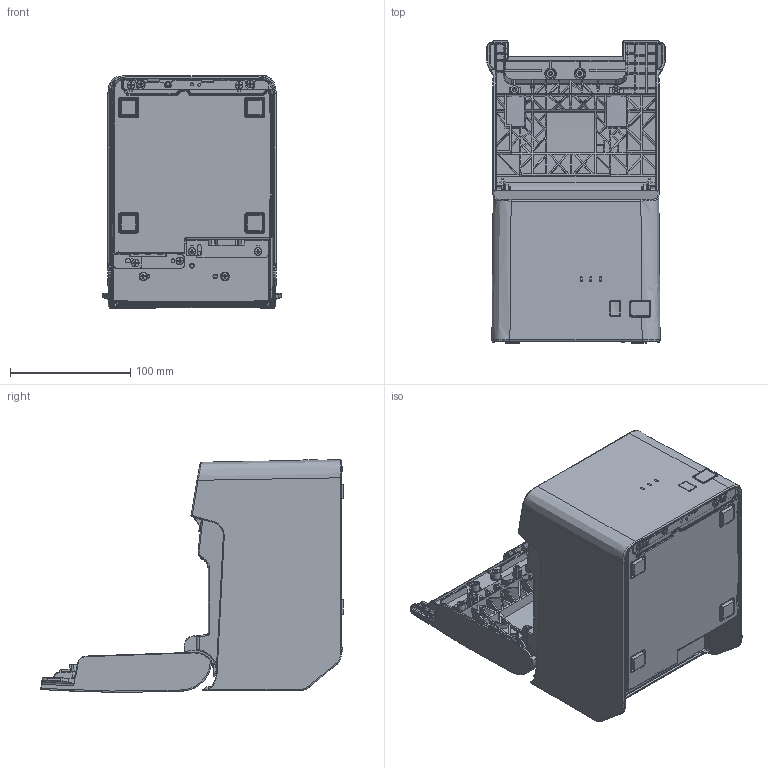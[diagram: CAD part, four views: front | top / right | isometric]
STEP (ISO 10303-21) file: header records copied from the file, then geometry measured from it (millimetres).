
FILE_DESCRIPTION((''),'2;1');
FILE_NAME('TM-T20X2_OPEN','2025-01-15T16:58:42',('5012938'),(''),'CREO PARAMETRIC BY PTC INC, 2022281','CREO PARAMETRIC BY PTC INC, 2022281','');
FILE_SCHEMA(('AUTOMOTIVE_DESIGN { 1 0 10303 214 1 1 1 1 }'));
Length unit declared in the file: millimetre
Products named in the file (1): TM-T20X2_OPEN
Bounding box: 148.4 x 251.76 x 193.47 mm (x, y, z)
Surface area: 479276.4 mm2 (no closed solid volume)
Topology: 0 solids, 55 shells, 4331 faces, 12361 edges, 8008 vertices
Faces by surface type: plane 2102, cylinder 1593, bspline 380, cone 100, torus 100, sphere 42, extrusion 12, revolution 2
Entity records: 195793 total; most frequent: CARTESIAN_POINT 85604, ORIENTED_EDGE 23102, DIRECTION 22045, EDGE_CURVE 12351, VERTEX_POINT 8008, AXIS2_PLACEMENT_3D 7446, VECTOR 7151, LINE 7139
